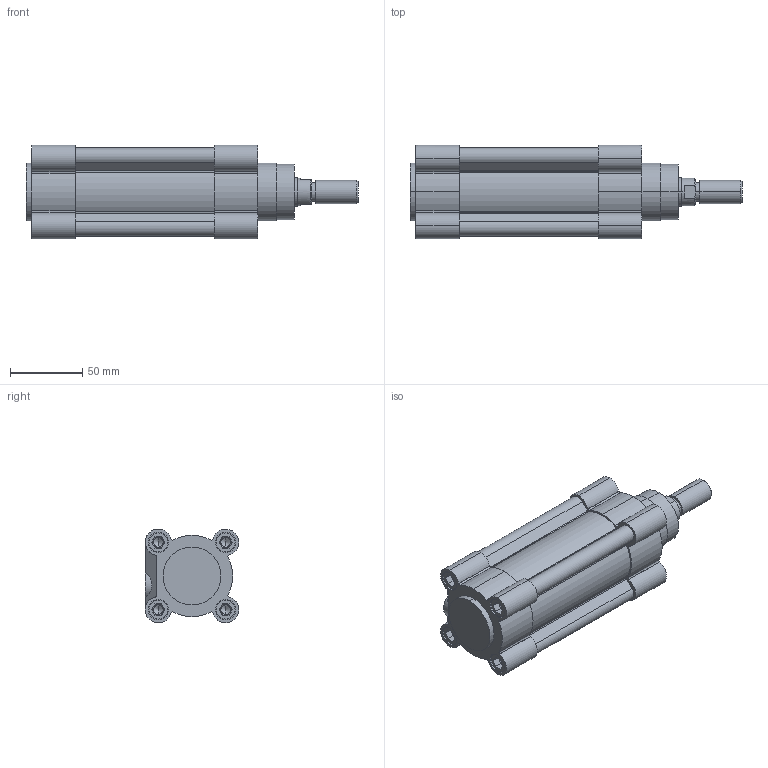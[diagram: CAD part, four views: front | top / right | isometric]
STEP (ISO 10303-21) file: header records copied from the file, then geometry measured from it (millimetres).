
FILE_DESCRIPTION (( 'STEP AP203' ), '1' );
FILE_NAME ('CPME50-50.STEP', '2023-07-11T12:01:07', ( '' ), ( '' ), 'SwSTEP 2.0', 'SolidWorks 2019', '' );
FILE_SCHEMA (( 'CONFIG_CONTROL_DESIGN' ));
Length unit declared in the file: millimetre
Products named in the file (1): CPME50-50
Bounding box: 229 x 64.5 x 64.5 mm (x, y, z)
Volume: 440883.1 mm3; surface area: 122205.7 mm2
Topology: 4 solids, 4 shells, 390 faces, 959 edges, 594 vertices
Faces by surface type: plane 181, cylinder 165, cone 44
Entity records: 11486 total; most frequent: DIRECTION 2099, CARTESIAN_POINT 1994, ORIENTED_EDGE 1878, EDGE_CURVE 939, AXIS2_PLACEMENT_3D 779, VERTEX_POINT 594, LINE 541, VECTOR 541
